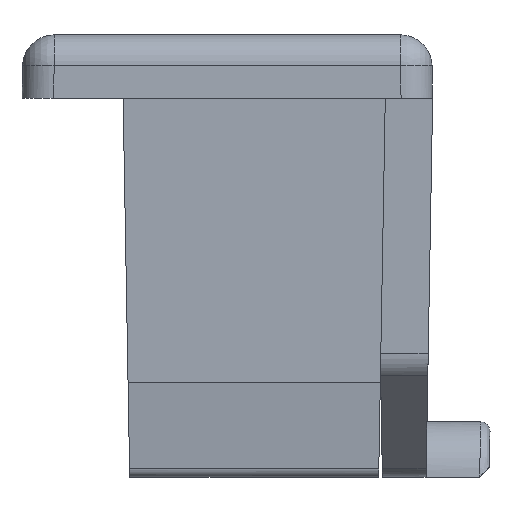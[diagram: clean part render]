
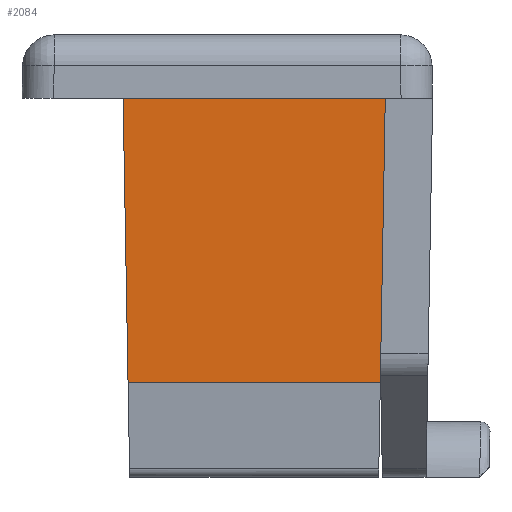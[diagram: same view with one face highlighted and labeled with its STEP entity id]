
A CAD part, left-side view. The second image highlights one B-rep face of the part: STEP entity #2084.
In plain terms, the highlighted planar face has unit normal (-1, 0, -0.018).
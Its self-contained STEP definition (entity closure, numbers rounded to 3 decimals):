
#252=DIRECTION('',(0.,-1.,0.));
#253=VECTOR('',#252,8.3);
#254=CARTESIAN_POINT('',(-14.8,3.3,0.));
#255=LINE('',#254,#253);
#966=DIRECTION('',(0.017,0.017,-1.));
#967=VECTOR('',#966,9.003);
#968=CARTESIAN_POINT('',(-14.8,-5.,0.));
#969=LINE('',#968,#967);
#1026=DIRECTION('',(0.017,-0.017,-1.));
#1027=VECTOR('',#1026,9.003);
#1028=CARTESIAN_POINT('',(-14.8,3.3,0.));
#1029=LINE('',#1028,#1027);
#1040=DIRECTION('',(0.,1.,0.));
#1041=VECTOR('',#1040,7.986);
#1042=CARTESIAN_POINT('',(-14.643,-4.843,
-9.));
#1043=LINE('',#1042,#1041);
#1140=CARTESIAN_POINT('',(-14.643,3.143,
-9.));
#1141=VERTEX_POINT('',#1140);
#1155=CARTESIAN_POINT('',(-14.8,3.3,0.));
#1156=CARTESIAN_POINT('',(-14.8,-5.,0.));
#1157=VERTEX_POINT('',#1155);
#1158=VERTEX_POINT('',#1156);
#1167=CARTESIAN_POINT('',(-14.643,-4.843,
-9.));
#1168=VERTEX_POINT('',#1167);
#2072=CARTESIAN_POINT('',(-14.8,3.3,0.));
#2073=DIRECTION('',(-1.,0.,-0.017));
#2074=DIRECTION('',(-0.017,0.,1.));
#2075=AXIS2_PLACEMENT_3D('',#2072,#2073,#2074);
#2076=PLANE('',#2075);
#2077=ORIENTED_EDGE('',*,*,#2035,.F.);
#2078=ORIENTED_EDGE('',*,*,#1346,.T.);
#2079=ORIENTED_EDGE('',*,*,#2002,.T.);
#2081=ORIENTED_EDGE('',*,*,#2080,.T.);
#2082=EDGE_LOOP('',(#2077,#2078,#2079,#2081));
#2083=FACE_OUTER_BOUND('',#2082,.F.);
#1346=EDGE_CURVE('',#1157,#1158,#255,.T.);
#2002=EDGE_CURVE('',#1158,#1168,#969,.T.);
#2035=EDGE_CURVE('',#1157,#1141,#1029,.T.);
#2080=EDGE_CURVE('',#1168,#1141,#1043,.T.);
#2084=ADVANCED_FACE('',(#2083),#2076,.T.);
